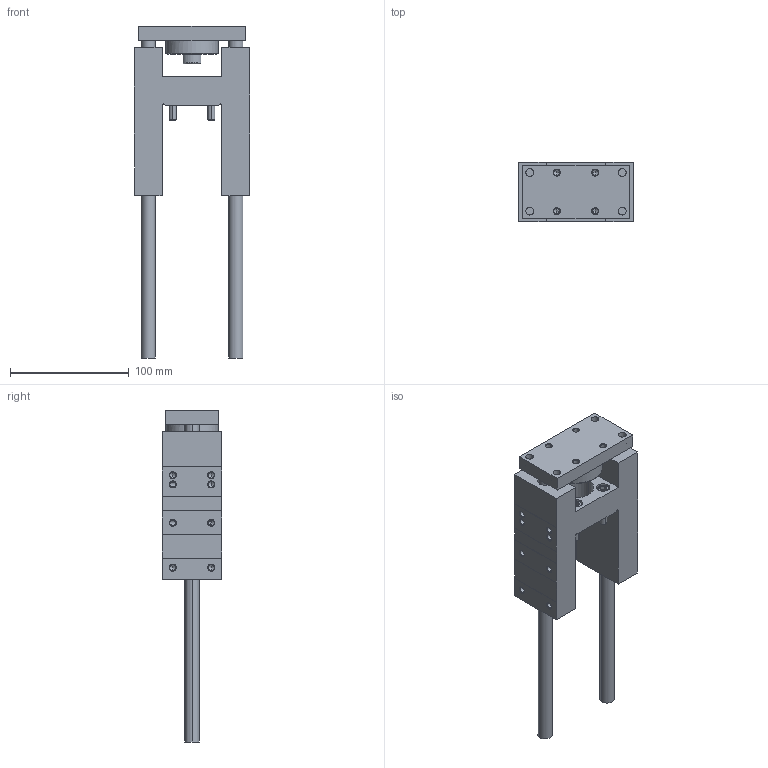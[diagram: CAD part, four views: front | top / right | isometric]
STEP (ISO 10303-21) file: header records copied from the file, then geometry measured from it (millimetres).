
FILE_DESCRIPTION (( 'STEP AP203' ), '1' );
FILE_NAME ('GB32-125.STEP', '2020-04-24T11:09:52', ( '' ), ( '' ), 'SwSTEP 2.0', 'SolidWorks 2019', '' );
FILE_SCHEMA (( 'CONFIG_CONTROL_DESIGN' ));
Length unit declared in the file: millimetre
Products named in the file (1): GB32-125
Bounding box: 97 x 50 x 280 mm (x, y, z)
Volume: 422210.6 mm3; surface area: 101781.2 mm2
Topology: 6 solids, 6 shells, 377 faces, 862 edges, 494 vertices
Faces by surface type: cone 154, plane 117, cylinder 106
Entity records: 11155 total; most frequent: CARTESIAN_POINT 2540, DIRECTION 1916, ORIENTED_EDGE 1660, EDGE_CURVE 830, AXIS2_PLACEMENT_3D 756, VERTEX_POINT 494, EDGE_LOOP 444, LINE 404
